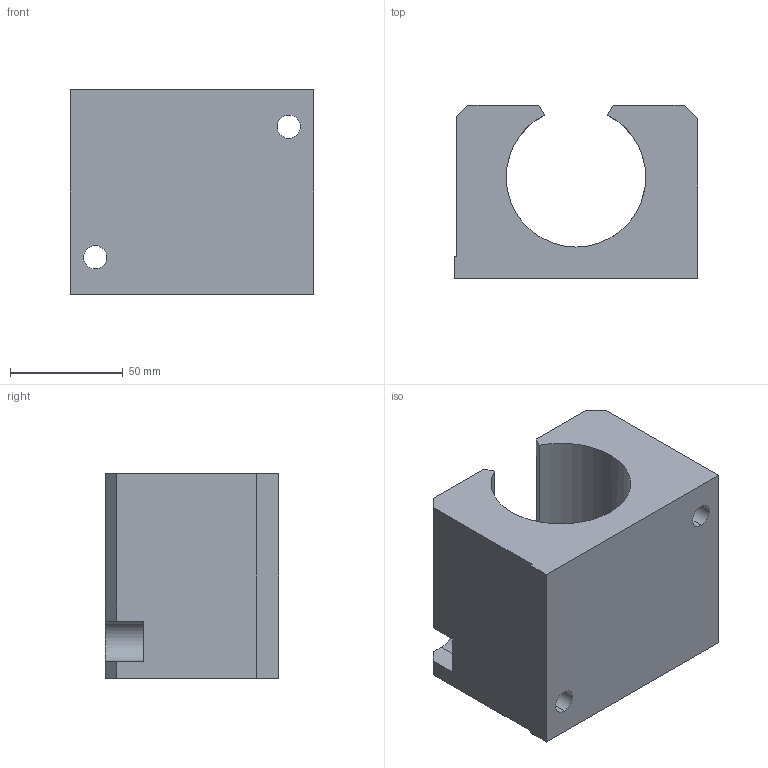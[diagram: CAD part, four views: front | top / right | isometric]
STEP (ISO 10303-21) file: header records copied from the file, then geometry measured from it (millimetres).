
FILE_DESCRIPTION (( 'STEP AP214' ), '1' );
FILE_NAME ('KGO37-40.step', '2020-03-04T13:21:43', ( '' ), ( '' ), 'SwSTEP 2.0', 'SolidWorks 2019', '' );
FILE_SCHEMA (( 'AUTOMOTIVE_DESIGN' ));
Length unit declared in the file: millimetre
Products named in the file (1): KGO37-40
Bounding box: 108 x 77 x 91 mm (x, y, z)
Volume: 444847.3 mm3; surface area: 62032.8 mm2
Topology: 1 solids, 1 shells, 41 faces, 113 edges, 74 vertices
Faces by surface type: plane 22, cylinder 17, cone 2
Entity records: 1547 total; most frequent: CARTESIAN_POINT 345, ORIENTED_EDGE 226, DIRECTION 221, EDGE_CURVE 113, LINE 77, VECTOR 77, VERTEX_POINT 74, AXIS2_PLACEMENT_3D 72
